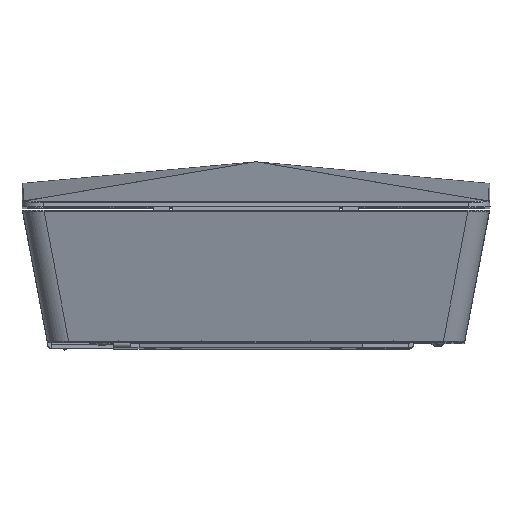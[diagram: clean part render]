
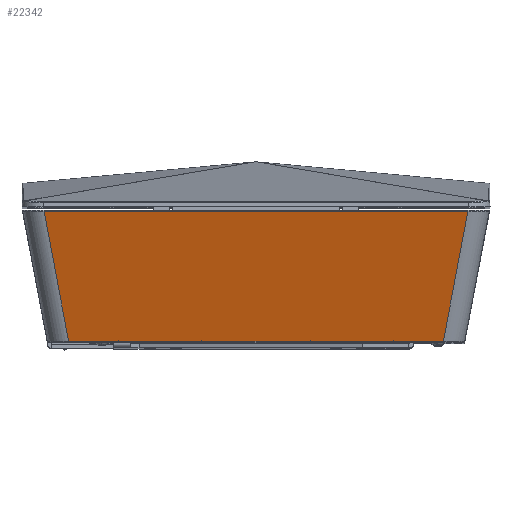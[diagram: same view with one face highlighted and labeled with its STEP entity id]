
A CAD part, top view. The second image highlights one B-rep face of the part: STEP entity #22342.
In plain terms, the highlighted planar face has unit normal (0, -0.274, 0.962).
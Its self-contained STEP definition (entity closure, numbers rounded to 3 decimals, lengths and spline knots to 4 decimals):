
#936 = VERTEX_POINT ( 'NONE', #17400 ) ;
#2450 = CARTESIAN_POINT ( 'NONE',  ( 3.4647, -1.7649, 8.6655 ) ) ;
#9418 = ORIENTED_EDGE ( 'NONE', *, *, #27749, .T. ) ;
#10007 = LINE ( 'NONE', #2450, #42599 ) ;
#10741 = LINE ( 'NONE', #19726, #32401 ) ;
#11596 = AXIS2_PLACEMENT_3D ( 'NONE', #46923, #38752, #51667 ) ;
#13799 = EDGE_LOOP ( 'NONE', ( #13878, #44020, #9418, #42064 ) ) ;
#13878 = ORIENTED_EDGE ( 'NONE', *, *, #44690, .T. ) ;
#15171 = VERTEX_POINT ( 'NONE', #15772 ) ;
#15772 = CARTESIAN_POINT ( 'NONE',  ( -3.4674, -1.7649, 8.6655 ) ) ;
#16846 = CARTESIAN_POINT ( 'NONE',  ( 3.4674, -1.7649, 8.6655 ) ) ;
#17400 = CARTESIAN_POINT ( 'NONE',  ( -3.9215, 0.6394, 9.3514 ) ) ;
#18089 = CARTESIAN_POINT ( 'NONE',  ( 0., 0.6394, 9.3514 ) ) ;
#19726 = CARTESIAN_POINT ( 'NONE',  ( -3.4773, -1.7127, 8.6804 ) ) ;
#22342 = ADVANCED_FACE ( 'NONE', ( #38836 ), #55701, .T. ) ;
#23576 = CARTESIAN_POINT ( 'NONE',  ( 3.9215, 0.6394, 9.3514 ) ) ;
#25058 = EDGE_CURVE ( 'NONE', #15171, #26011, #10007, .T. ) ;
#26011 = VERTEX_POINT ( 'NONE', #16846 ) ;
#27749 = EDGE_CURVE ( 'NONE', #26011, #37399, #51242, .T. ) ;
#28105 = DIRECTION ( 'NONE',  ( 0.179, -0.946, -0.27 ) ) ;
#30823 = VECTOR ( 'NONE', #43676, 39.3701 ) ;
#30896 = LINE ( 'NONE', #18089, #37723 ) ;
#32401 = VECTOR ( 'NONE', #28105, 39.3701 ) ;
#34347 = CARTESIAN_POINT ( 'NONE',  ( 3.8114, 0.0563, 9.1851 ) ) ;
#36593 = EDGE_CURVE ( 'NONE', #37399, #936, #30896, .T. ) ;
#37399 = VERTEX_POINT ( 'NONE', #23576 ) ;
#37723 = VECTOR ( 'NONE', #39752, 39.3701 ) ;
#38752 = DIRECTION ( 'NONE',  ( 0., -0.274, 0.962 ) ) ;
#38836 = FACE_OUTER_BOUND ( 'NONE', #13799, .T. ) ;
#39752 = DIRECTION ( 'NONE',  ( -1., 0., 0. ) ) ;
#41012 = DIRECTION ( 'NONE',  ( 1., 0., 0. ) ) ;
#42064 = ORIENTED_EDGE ( 'NONE', *, *, #36593, .T. ) ;
#42599 = VECTOR ( 'NONE', #41012, 39.3701 ) ;
#43676 = DIRECTION ( 'NONE',  ( 0.179, 0.946, 0.27 ) ) ;
#44020 = ORIENTED_EDGE ( 'NONE', *, *, #25058, .T. ) ;
#44690 = EDGE_CURVE ( 'NONE', #936, #15171, #10741, .T. ) ;
#46923 = CARTESIAN_POINT ( 'NONE',  ( 0., 0.722, 9.375 ) ) ;
#51242 = LINE ( 'NONE', #34347, #30823 ) ;
#51667 = DIRECTION ( 'NONE',  ( 0., -0.962, -0.274 ) ) ;
#55701 = PLANE ( 'NONE',  #11596 ) ;
